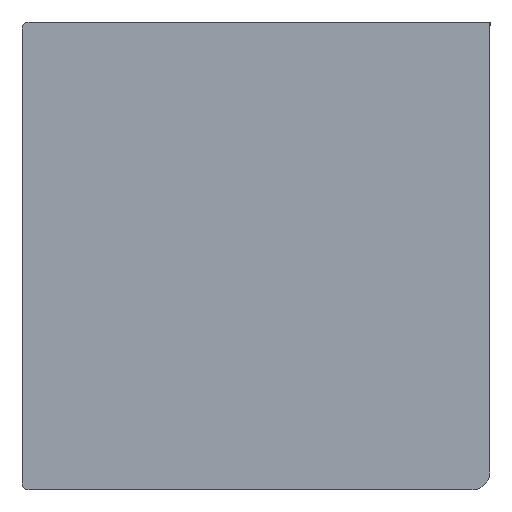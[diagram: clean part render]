
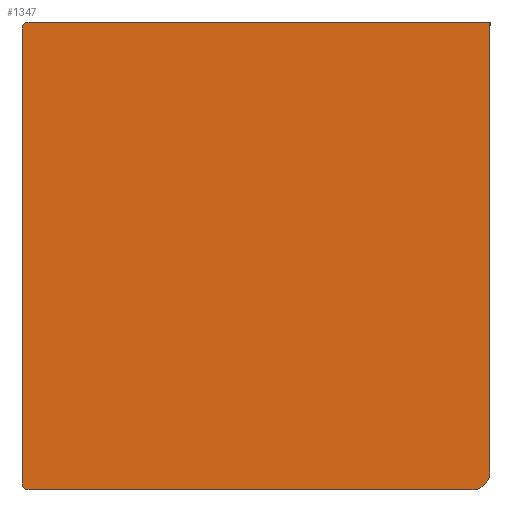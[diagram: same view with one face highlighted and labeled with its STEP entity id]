
A CAD part, left-side view. The second image highlights one B-rep face of the part: STEP entity #1347.
In plain terms, the highlighted planar face has unit normal (-1, 0, 0) as drawn and (0, 0, 1) by its records, which use the part's own axes.
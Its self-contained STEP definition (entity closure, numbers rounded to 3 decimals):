
#11 = CARTESIAN_POINT ( 'NONE',  ( -62.5, 65.5, 0. ) ) ;
#40 = DIRECTION ( 'NONE',  ( 1., 0., 0. ) ) ;
#113 = VERTEX_POINT ( 'NONE', #705 ) ;
#128 = VECTOR ( 'NONE', #223, 1000. ) ;
#153 = DIRECTION ( 'NONE',  ( 0., 0., 1. ) ) ;
#154 = AXIS2_PLACEMENT_3D ( 'NONE', #1179, #1527, #40 ) ;
#187 = VECTOR ( 'NONE', #1708, 1000. ) ;
#195 = EDGE_CURVE ( 'NONE', #1882, #1204, #719, .T. ) ;
#207 = EDGE_CURVE ( 'NONE', #1204, #113, #649, .T. ) ;
#208 = PLANE ( 'NONE',  #154 ) ;
#223 = DIRECTION ( 'NONE',  ( -1., 0., 0. ) ) ;
#225 = CARTESIAN_POINT ( 'NONE',  ( -64.5, -64.5, 0. ) ) ;
#233 = ORIENTED_EDGE ( 'NONE', *, *, #1366, .T. ) ;
#301 = EDGE_CURVE ( 'NONE', #1004, #565, #2114, .T. ) ;
#317 = DIRECTION ( 'NONE',  ( 1., 0., 0. ) ) ;
#320 = EDGE_CURVE ( 'NONE', #1363, #1882, #1441, .T. ) ;
#354 = LINE ( 'NONE', #225, #1995 ) ;
#381 = FACE_OUTER_BOUND ( 'NONE', #1245, .T. ) ;
#409 = CARTESIAN_POINT ( 'NONE',  ( -59.5, -64.5, 0. ) ) ;
#426 = DIRECTION ( 'NONE',  ( 1., 0., 0. ) ) ;
#463 = CARTESIAN_POINT ( 'NONE',  ( 63.5, 63.5, 0. ) ) ;
#498 = ORIENTED_EDGE ( 'NONE', *, *, #301, .T. ) ;
#519 = VERTEX_POINT ( 'NONE', #849 ) ;
#565 = VERTEX_POINT ( 'NONE', #409 ) ;
#593 = DIRECTION ( 'NONE',  ( 0., 0., 1. ) ) ;
#608 = LINE ( 'NONE', #1273, #1221 ) ;
#649 = CIRCLE ( 'NONE', #1680, 2. ) ;
#705 = CARTESIAN_POINT ( 'NONE',  ( -64.5, 63.5, 0. ) ) ;
#719 = LINE ( 'NONE', #1224, #128 ) ;
#739 = ORIENTED_EDGE ( 'NONE', *, *, #320, .T. ) ;
#785 = DIRECTION ( 'NONE',  ( 0., 1., 0. ) ) ;
#849 = CARTESIAN_POINT ( 'NONE',  ( 65.5, -64.5, 0. ) ) ;
#850 = ORIENTED_EDGE ( 'NONE', *, *, #1077, .T. ) ;
#905 = ORIENTED_EDGE ( 'NONE', *, *, #195, .T. ) ;
#993 = CARTESIAN_POINT ( 'NONE',  ( 63.5, 65.5, 0. ) ) ;
#1004 = VERTEX_POINT ( 'NONE', #1102 ) ;
#1071 = DIRECTION ( 'NONE',  ( 0., 0., 1. ) ) ;
#1077 = EDGE_CURVE ( 'NONE', #519, #1363, #608, .T. ) ;
#1102 = CARTESIAN_POINT ( 'NONE',  ( -64.5, -59.5, 0. ) ) ;
#1179 = CARTESIAN_POINT ( 'NONE',  ( 0., 0., 0. ) ) ;
#1200 = AXIS2_PLACEMENT_3D ( 'NONE', #463, #153, #317 ) ;
#1204 = VERTEX_POINT ( 'NONE', #11 ) ;
#1221 = VECTOR ( 'NONE', #785, 1000. ) ;
#1224 = CARTESIAN_POINT ( 'NONE',  ( 65.5, 65.5, 0. ) ) ;
#1245 = EDGE_LOOP ( 'NONE', ( #905, #2075, #1390, #498, #233, #850, #739 ) ) ;
#1258 = DIRECTION ( 'NONE',  ( 1., 0., 0. ) ) ;
#1273 = CARTESIAN_POINT ( 'NONE',  ( 65.5, -64.5, 0. ) ) ;
#1347 = ADVANCED_FACE ( 'NONE', ( #381 ), #208, .T. ) ;
#1360 = CARTESIAN_POINT ( 'NONE',  ( 65.5, 63.5, 0. ) ) ;
#1363 = VERTEX_POINT ( 'NONE', #1360 ) ;
#1366 = EDGE_CURVE ( 'NONE', #565, #519, #1853, .T. ) ;
#1370 = EDGE_CURVE ( 'NONE', #113, #1004, #354, .T. ) ;
#1372 = DIRECTION ( 'NONE',  ( 0., -1., 0. ) ) ;
#1390 = ORIENTED_EDGE ( 'NONE', *, *, #1370, .T. ) ;
#1441 = CIRCLE ( 'NONE', #1200, 2. ) ;
#1527 = DIRECTION ( 'NONE',  ( 0., 0., 1. ) ) ;
#1668 = CARTESIAN_POINT ( 'NONE',  ( 65.5, -64.5, 0. ) ) ;
#1680 = AXIS2_PLACEMENT_3D ( 'NONE', #2066, #1071, #426 ) ;
#1708 = DIRECTION ( 'NONE',  ( 1., 0., 0. ) ) ;
#1853 = LINE ( 'NONE', #1668, #187 ) ;
#1857 = AXIS2_PLACEMENT_3D ( 'NONE', #2089, #593, #1258 ) ;
#1882 = VERTEX_POINT ( 'NONE', #993 ) ;
#1995 = VECTOR ( 'NONE', #1372, 1000. ) ;
#2066 = CARTESIAN_POINT ( 'NONE',  ( -62.5, 63.5, 0. ) ) ;
#2075 = ORIENTED_EDGE ( 'NONE', *, *, #207, .T. ) ;
#2089 = CARTESIAN_POINT ( 'NONE',  ( -59.5, -59.5, 0. ) ) ;
#2114 = CIRCLE ( 'NONE', #1857, 5. ) ;
